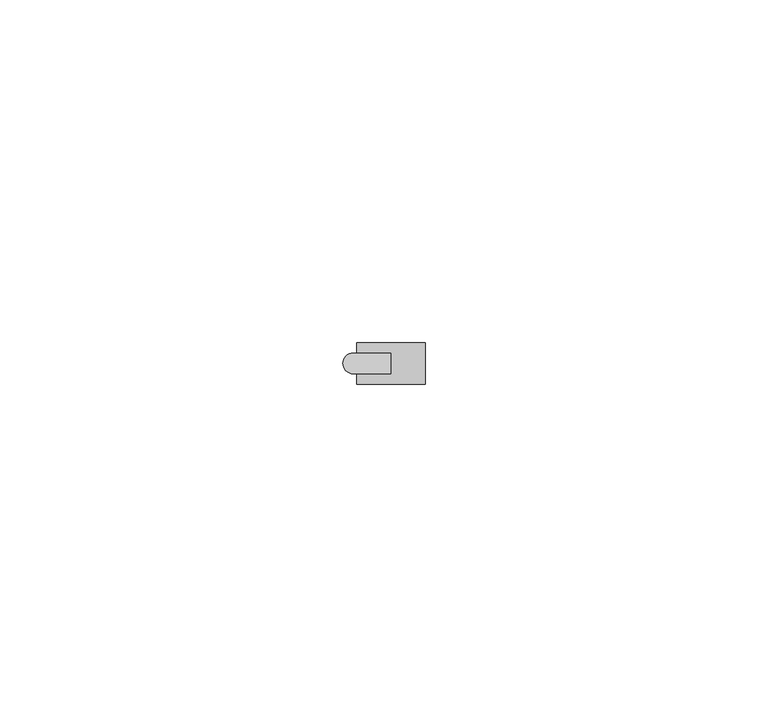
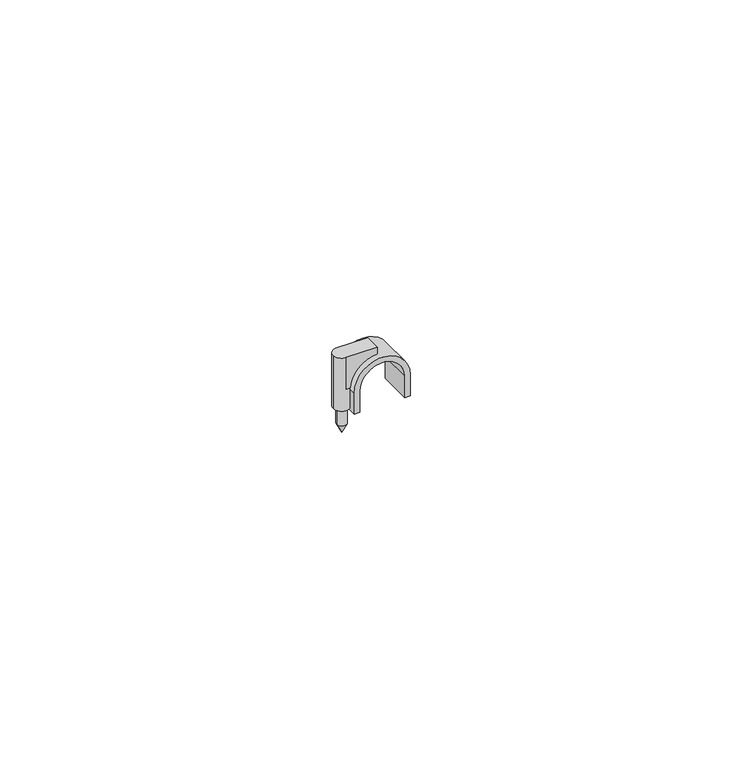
"""IFC4 building model written with IfcOpenShell, lengths in millimetres: cable carrier fitting geometry, КНС_СкобаПластиковаяСГвоздем_DKC : д.7 - 8мм."""

from ifc_helpers import new_model, si_unit, point, frame, frame_2d, origin, place, context, project, spatial, polyline, circle_curve, trimmed, segment, composite_curve, outline, extrude, source, transform, mapped, element, save
from ifc_brep_helpers import plane_surface, cylinder_surface, revolved_surface, advanced_brep


def cable_carrier_fitting_81e078ec(model_context):
    return source(origin(), model_context, "Body", "SolidModel", [
        advanced_brep(
        [(-4.6, 0.0, 0.0), (-6.4, 0.0, 0.0), (-5.5, 0.0, 0.0), (-4.6, 0.0, -3.2), (-6.4, 0.0, -3.2), (-5.5, 0.0, -5.0)],
        [
            (0, 1, circle_curve(frame((-5.5, 0.0, 0.0), z_axis=(0.0, 0.0, 1.0), x_axis=(-1.0, 0.0, 0.0)), 0.9)),
            (1, 2),
            (2, 0),
            (1, 0, circle_curve(frame((-5.5, 0.0, 0.0), z_axis=(0.0, 0.0, 1.0), x_axis=(-1.0, 0.0, 0.0)), 0.9)),
            (3, 4, circle_curve(frame((-5.5, 0.0, -3.2), z_axis=(0.0, 0.0, 1.0), x_axis=(-1.0, 0.0, 0.0)), 0.9)),
            (4, 1),
            (0, 3),
            (4, 3, circle_curve(frame((-5.5, 0.0, -3.2), z_axis=(0.0, 0.0, 1.0), x_axis=(-1.0, 0.0, 0.0)), 0.9)),
            (5, 4),
            (3, 5),
        ],
        [
            plane_surface(frame((-5.5, 0.0, 0.0), z_axis=(0.0, 0.0, 1.0), x_axis=(-1.0, 0.0, 0.0))),
            cylinder_surface(frame((-5.5, 0.0, 21.2919306), z_axis=(0.0, 0.0, -1.0), x_axis=(-1.0, 0.0, 0.0)), 0.9),
            revolved_surface(polyline([(-6.4, 0.0, -3.2), (-5.5, 0.0, -5.0)]), (-5.5, 0.0, 21.2919306), (0.0, 0.0, -1.0)),
        ],
        [
            (0, [[1, 2, 3]]),
            (0, [[4, -3, -2]]),
            (1, [[5, 6, -1, 7]]),
            (1, [[8, -7, -4, -6]]),
            (2, [[9, -5, 10]]),
            (2, [[-10, -8, -9]]),
        ],
    ),
        advanced_brep(
        [(-4.0, -1.5, 4.0), (0.0, -1.5, 8.0), (0.0, -1.5, 10.0), (-5.5, -1.5, 10.0), (-5.5, -1.5, 4.0), (-4.0, 1.5, 4.0), (-5.5, 1.5, 4.0), (-5.5, 1.5, 10.0), (0.0, 1.5, 10.0), (0.0, 1.5, 8.0), (-4.0, 0.0, 4.0), (-7.0, 0.0, 10.0), (-4.0, 0.0, 0.0), (-7.0, 0.0, 0.0), (-5.5, 0.0, 0.0)],
        [
            (0, 1, circle_curve(frame((0.0, -1.5, 4.0), z_axis=(0.0, 1.0, 0.0), x_axis=(1.0, 0.0, 0.0)), 4.0)),
            (1, 2),
            (2, 3),
            (3, 4),
            (4, 0),
            (5, 6),
            (6, 7),
            (7, 8),
            (8, 9),
            (9, 5, circle_curve(frame((0.0, 1.5, 4.0), z_axis=(0.0, -1.0, 0.0), x_axis=(1.0, 0.0, 0.0)), 4.0)),
            (0, 10),
            (10, 5),
            (9, 1),
            (8, 2),
            (7, 11, circle_curve(frame((-5.5, 0.0, 10.0), z_axis=(0.0, 0.0, 1.0), x_axis=(-1.0, 0.0, 0.0)), 1.5)),
            (11, 3, circle_curve(frame((-5.5, 0.0, 10.0), z_axis=(0.0, 0.0, 1.0), x_axis=(-1.0, 0.0, 0.0)), 1.5)),
            (4, 10, circle_curve(frame((-5.5, 0.0, 4.0), z_axis=(0.0, 0.0, 1.0), x_axis=(-1.0, 0.0, 0.0)), 1.5)),
            (10, 6, circle_curve(frame((-5.5, 0.0, 4.0), z_axis=(0.0, 0.0, 1.0), x_axis=(-1.0, 0.0, 0.0)), 1.5)),
            (12, 13, circle_curve(frame((-5.5, 0.0, 0.0), z_axis=(0.0, 0.0, 1.0), x_axis=(-1.0, 0.0, 0.0)), 1.5)),
            (13, 11),
            (10, 12),
            (13, 12, circle_curve(frame((-5.5, 0.0, 0.0), z_axis=(0.0, 0.0, 1.0), x_axis=(-1.0, 0.0, 0.0)), 1.5)),
            (12, 14),
            (14, 13),
        ],
        [
            plane_surface(frame((4.0, -1.5, 4.0), z_axis=(0.0, -1.0, 0.0), x_axis=(0.0, 0.0, -1.0))),
            plane_surface(frame((4.0, 1.5, 4.0), z_axis=(0.0, 1.0, 0.0), x_axis=(0.0, 0.0, 1.0))),
            revolved_surface(polyline([(4.0, 1.5, 4.0), (4.0, -1.5, 4.0)]), (0.0, 1.5, 4.0), (0.0, 1.0, 0.0)),
            plane_surface(frame((0.0, -1.5, 8.0), z_axis=(1.0, 0.0, 0.0), x_axis=(0.0, 1.0, 0.0))),
            plane_surface(frame((0.0, -1.5, 10.0), z_axis=(0.0, 0.0, 1.0), x_axis=(0.0, 1.0, 0.0))),
            plane_surface(frame((-5.5, -1.5, 4.0), z_axis=(0.0, 0.0, -1.0), x_axis=(0.0, 1.0, 0.0))),
            cylinder_surface(frame((-5.5, 0.0, 21.2919306), z_axis=(0.0, 0.0, -1.0), x_axis=(-1.0, 0.0, 0.0)), 1.5),
            plane_surface(frame((-5.5, 0.0, 0.0), z_axis=(0.0, 0.0, -1.0), x_axis=(-1.0, 0.0, 0.0))),
        ],
        [
            (0, [[1, 2, 3, 4, 5]]),
            (1, [[6, 7, 8, 9, 10]]),
            (2, [[-1, 11, 12, -10, 13]]),
            (3, [[-2, -13, -9, 14]]),
            (4, [[-3, -14, -8, 15, 16]]),
            (5, [[-5, 17, -11]]),
            (5, [[-6, -12, 18]]),
            (6, [[19, 20, -15, -7, -18, 21]]),
            (6, [[-20, 22, -21, -17, -4, -16]]),
            (7, [[-19, 23, 24]]),
            (7, [[-22, -24, -23]]),
        ],
    ),
        extrude(outline(composite_curve([segment(polyline([(4.0, 4.0), (0.0, 4.0), (0.0, 5.0), (4.0, 5.0)]), True, "CONTINUOUS"), segment(trimmed(circle_curve(frame_2d((4.0, 0.0)), 5.0), [point((4.0, 5.0))], [point((4.0, -5.0))], False, "CARTESIAN"), True, "CONTINUOUS"), segment(polyline([(4.0, -5.0), (0.0, -5.0), (0.0, -4.0), (4.0, -4.0)]), True, "CONTINUOUS"), segment(trimmed(circle_curve(frame_2d((4.0, 0.0)), 4.0), [point((4.0, -4.0))], [point((4.0, 4.0))], True, "CARTESIAN"), True, "CONTINUOUS")], self_intersect=False)), frame((0.0, -3.0, 0.0), z_axis=(0.0, 1.0, 0.0), x_axis=(0.0, 0.0, 1.0)), (0.0, 0.0, 1.0), 6.0),
    ])


if __name__ == "__main__":
    model = new_model("IFC4")
    model_context = context("Model", 3, world=origin())
    ifc_project = project(units=[si_unit("LENGTHUNIT", "METRE", prefix="MILLI")], contexts=[model_context])
    site = spatial("IfcSite", under=ifc_project)
    building = spatial("IfcBuilding", under=site)
    placement = place(None, origin())
    cable_carrier_fitting_shape = cable_carrier_fitting_81e078ec(model_context)
    element("IfcCableCarrierFitting", 1, ObjectType="КНС_СкобаПластиковаяСГвоздем_DKC : д.7 - 8мм", at=placement, inside=building, context=model_context, shape_type="MappedRepresentation", body=[
        mapped(cable_carrier_fitting_shape, transform((0.0, 0.0, 0.0), x_axis=(1.0, 0.0, 0.0), y_axis=(0.0, 1.0, 0.0), z_axis=(0.0, 0.0, 1.0))),
    ])
    save(model, "model.ifc")
